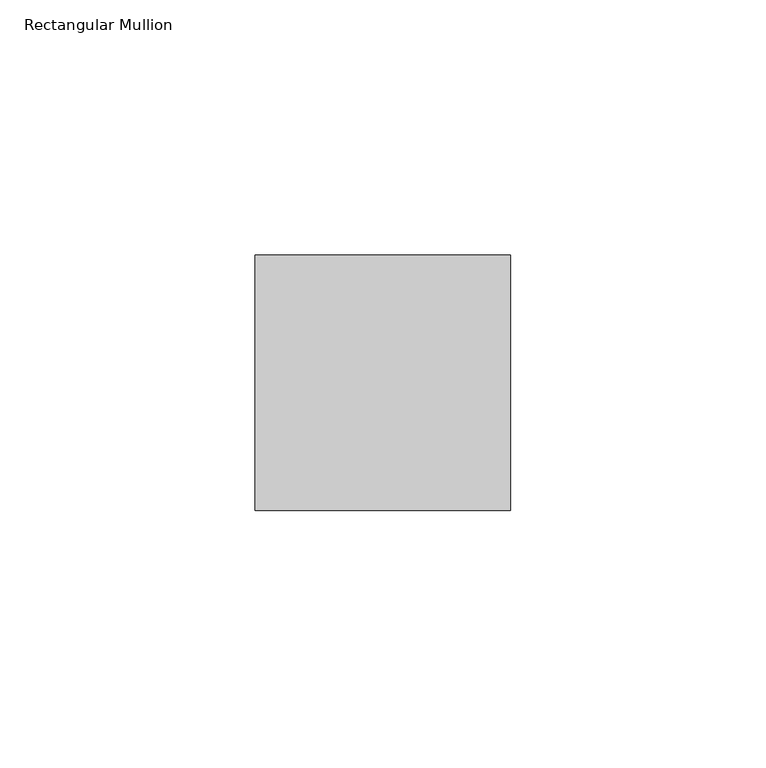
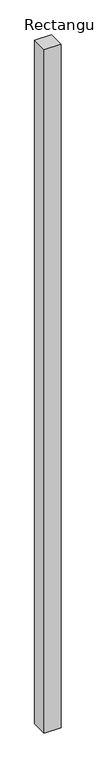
"""IFC4 building model written with IfcOpenShell, lengths in millimetres: member geometry, Rectangular Mullion : Mullion_Curtain Wall_Generic Showcase_50x50mm."""

import ifcopenshell
import ifcopenshell.guid

model = None  # the IFC model being written
_history = None  # IfcOwnerHistory: only IFC2X3 demands one
_inside = {}  # id of a spatial element -> (the spatial element, [elements in it])
_under = {}  # id of a project, library or spatial element -> (it, [spatial elements below it])
_declared = {}  # id of a project -> (the project, [libraries it declares])
_typed = {}  # id of a type object -> (the type object, [elements of that type])
_made_of = {}  # id of a material, layer set ... -> (it, [elements and type objects made of it])


def new_model(schema):
    """Start an empty IFC model of exactly this schema.

    Asked for "IFC4X3", IfcOpenShell would pick the latest addendum, in which some entities
    have other attributes; the version numbers below select the first issue.
    IFC2X3 requires an IfcOwnerHistory on every rooted entity: one is made here for all.
    """
    global model, _history
    if schema == "IFC4X3":
        model = ifcopenshell.file(schema_version=(4, 3, 0, 0))
    else:
        model = ifcopenshell.file(schema=schema)
    _inside.clear()
    _under.clear()
    _declared.clear()
    _typed.clear()
    _made_of.clear()
    _history = None
    if model.schema == "IFC2X3":
        org = make("IfcOrganization", Name="unknown")
        user = make(
            "IfcPersonAndOrganization",
            ThePerson=make("IfcPerson", FamilyName="unknown"),
            TheOrganization=org,
        )
        app = make(
            "IfcApplication",
            ApplicationDeveloper=org,
            Version="unknown",
            ApplicationFullName="unknown",
            ApplicationIdentifier="unknown",
        )
        _history = make(
            "IfcOwnerHistory",
            OwningUser=user,
            OwningApplication=app,
            ChangeAction="ADDED",
            CreationDate=0,
        )
    return model


def make(cls, **values):
    """One entity of the class cls with the attributes given. An attribute that is None is left unset."""
    return model.create_entity(
        cls, **{name: value for name, value in values.items() if value is not None}
    )


def rooted(cls, **values):
    """An entity with a GlobalId (a new one), such as an element, a storey or a relation."""
    return make(cls, GlobalId=ifcopenshell.guid.new(), OwnerHistory=_history, **values)


def si_unit(unit_type, name, prefix=None):
    """IfcSIUnit, for example si_unit("LENGTHUNIT", "METRE", prefix="MILLI")."""
    return make("IfcSIUnit", UnitType=unit_type, Prefix=prefix, Name=name)


def assignment(units):
    """IfcUnitAssignment: the units of a project."""
    return None if units is None else make("IfcUnitAssignment", Units=units)


def point(xyz):
    """IfcCartesianPoint."""
    return None if xyz is None else make("IfcCartesianPoint", Coordinates=xyz)


def direction(xyz):
    """IfcDirection."""
    return None if xyz is None else make("IfcDirection", DirectionRatios=xyz)


def frame(location, z_axis=None, x_axis=None):
    """IfcAxis2Placement3D, a coordinate frame: its origin and axes. An axis left out is left unset."""
    return make(
        "IfcAxis2Placement3D",
        Location=point(location),
        Axis=direction(z_axis),
        RefDirection=direction(x_axis),
    )


def origin():
    """The frame at (0, 0, 0) with its axes left unset."""
    return frame((0.0, 0.0, 0.0))


def place(relative_to, where):
    """IfcLocalPlacement: puts the frame where relative to a parent placement (None: the world)."""
    return make(
        "IfcLocalPlacement", PlacementRelTo=relative_to, RelativePlacement=where
    )


def context(
    kind, dimensions, precision=None, world=None, true_north=None, identifier=None
):
    """IfcGeometricRepresentationContext, for example the 3D "Model" context."""
    return make(
        "IfcGeometricRepresentationContext",
        ContextIdentifier=identifier,
        ContextType=kind,
        CoordinateSpaceDimension=dimensions,
        Precision=precision,
        WorldCoordinateSystem=world,
        TrueNorth=true_north,
    )


def project(units=None, contexts=None):
    """IfcProject with its units and contexts."""
    return rooted(
        "IfcProject",
        Name="project",
        RepresentationContexts=contexts,
        UnitsInContext=assignment(units),
    )


def spatial(cls, under=None, at=None, **own):
    """A site, building, storey or space (cls), placed at a placement, below another one or the project."""
    s = rooted(cls, ObjectPlacement=at, **own)
    if under is not None:
        _under.setdefault(under.id(), (under, []))[1].append(s)
    return s


def polyline(points):
    """IfcPolyline through the points."""
    return make("IfcPolyline", Points=[point(p) for p in points])


def outline(outer, holes=None, kind="AREA"):
    """IfcArbitraryClosedProfileDef: a profile drawn as a closed curve; with holes, ...WithVoids."""
    if holes is None:
        return make("IfcArbitraryClosedProfileDef", ProfileType=kind, OuterCurve=outer)
    return make(
        "IfcArbitraryProfileDefWithVoids",
        ProfileType=kind,
        OuterCurve=outer,
        InnerCurves=holes,
    )


def extrude(swept, where, along, depth):
    """IfcExtrudedAreaSolid: the profile swept, set in the frame where, extruded along a direction by depth."""
    return make(
        "IfcExtrudedAreaSolid",
        SweptArea=swept,
        Position=where,
        ExtrudedDirection=direction(along),
        Depth=depth,
    )


def shape(context_of_items, identifier, shape_type, items):
    """IfcShapeRepresentation: the items that make up one representation, for example the "Body"."""
    return make(
        "IfcShapeRepresentation",
        ContextOfItems=context_of_items,
        RepresentationIdentifier=identifier,
        RepresentationType=shape_type,
        Items=items,
    )


def source(mapping_origin, context_of_items, identifier, shape_type, items):
    """IfcRepresentationMap: a shape defined once, which mapped items show again and again."""
    return make(
        "IfcRepresentationMap",
        MappingOrigin=mapping_origin,
        MappedRepresentation=shape(context_of_items, identifier, shape_type, items),
    )


def transform(
    local_origin,
    x_axis=None,
    y_axis=None,
    z_axis=None,
    scale=None,
    scale2=None,
    scale3=None,
    uniform=True,
):
    """IfcCartesianTransformationOperator3D, or its non-uniform kind. x_axis, y_axis, z_axis: its Axis1, 2, 3."""
    if uniform:
        return make(
            "IfcCartesianTransformationOperator3D",
            Axis1=direction(x_axis),
            Axis2=direction(y_axis),
            LocalOrigin=point(local_origin),
            Scale=scale,
            Axis3=direction(z_axis),
        )
    return make(
        "IfcCartesianTransformationOperator3DnonUniform",
        Axis1=direction(x_axis),
        Axis2=direction(y_axis),
        LocalOrigin=point(local_origin),
        Scale=scale,
        Axis3=direction(z_axis),
        Scale2=scale2,
        Scale3=scale3,
    )


def mapped(mapping_source, mapping_target):
    """IfcMappedItem: shows the shape of a source again, moved by a transform."""
    return make(
        "IfcMappedItem", MappingSource=mapping_source, MappingTarget=mapping_target
    )


def made_of(thing, what):
    """Note that an element or type object is made of a material, layer set ...; save() writes the relation."""
    if what is not None:
        _made_of.setdefault(what.id(), (what, []))[1].append(thing)
    return thing


def element(
    cls,
    number,
    at=None,
    inside=None,
    cuts=None,
    type_object=None,
    material=None,
    context=None,
    identifier="Body",
    shape_type=None,
    held_by="IfcProductDefinitionShape",
    body=None,
    shapes=None,
    **own,
):
    """One element of the class cls, such as IfcWall. Its Tag is "e" and its number.

    at: its placement. inside: the storey or other place that contains it. cuts: it is an
    opening in that element (IfcRelVoidsElement). A single representation is given by context,
    identifier, shape_type and body (its items); several are given by shapes. held_by: the class
    of the entity that holds the representations. save() writes the other relations.
    """
    e = rooted(cls, Tag="e%d" % number, ObjectPlacement=at, **own)
    if body is not None:
        shapes = [shape(context, identifier, shape_type, body)]
    if shapes is not None:
        e.Representation = make(held_by, Representations=shapes)
    if inside is not None:
        _inside.setdefault(inside.id(), (inside, []))[1].append(e)
    if cuts is not None:
        rooted(
            "IfcRelVoidsElement", RelatingBuildingElement=cuts, RelatedOpeningElement=e
        )
    if type_object is not None:
        _typed.setdefault(type_object.id(), (type_object, []))[1].append(e)
    return made_of(e, material)


def aggregate(whole, parts):
    """IfcRelAggregates: a whole, such as a stair, and the parts it consists of."""
    return rooted("IfcRelAggregates", RelatingObject=whole, RelatedObjects=parts)


def save(model, path):
    """Write the relations noted so far, then the file.

    IfcRelAggregates (storeys below a building ...), IfcRelContainedInSpatialStructure (elements
    in a storey), IfcRelDefinesByType, IfcRelAssociatesMaterial and IfcRelDeclares: one each for
    every whole, place, type object, material and project.
    """
    for whole, parts in _under.values():
        aggregate(whole, parts)
    for where, things in _inside.values():
        rooted(
            "IfcRelContainedInSpatialStructure",
            RelatedElements=things,
            RelatingStructure=where,
        )
    for kind, things in _typed.values():
        rooted("IfcRelDefinesByType", RelatedObjects=things, RelatingType=kind)
    for what, things in _made_of.values():
        rooted("IfcRelAssociatesMaterial", RelatedObjects=things, RelatingMaterial=what)
    for by, libraries in _declared.values():
        rooted("IfcRelDeclares", RelatingContext=by, RelatedDefinitions=libraries)
    model.write(path)


def rectangular_mullion_d40b3f67(model_context):
    return source(origin(), model_context, "Body", "SweptSolid", [
        extrude(outline(polyline([(25.0, 50.0), (25.0, 0.0), (-25.0, 0.0), (-25.0, 50.0), (25.0, 50.0)])), frame((0.0, 0.0, -2175.0), z_axis=(0.0, 0.0, 1.0), x_axis=(1.0, 0.0, 0.0)), (0.0, 0.0, 1.0), 2175.0),
    ])


if __name__ == "__main__":
    model = new_model("IFC4")
    model_context = context("Model", 3, world=origin())
    ifc_project = project(units=[si_unit("LENGTHUNIT", "METRE", prefix="MILLI")], contexts=[model_context])
    site = spatial("IfcSite", under=ifc_project)
    building = spatial("IfcBuilding", under=site)
    placement = place(None, origin())
    rectangular_mullion_shape = rectangular_mullion_d40b3f67(model_context)
    element("IfcMember", 1, ObjectType="Rectangular Mullion : Mullion_Curtain Wall_Generic Showcase_50x50mm", at=placement, inside=building, context=model_context, shape_type="MappedRepresentation", body=[
        mapped(rectangular_mullion_shape, transform((0.0, 0.0, 0.0), x_axis=(1.0, 0.0, 0.0), y_axis=(0.0, 1.0, 0.0), z_axis=(0.0, 0.0, 1.0))),
    ])
    save(model, "model.ifc")
